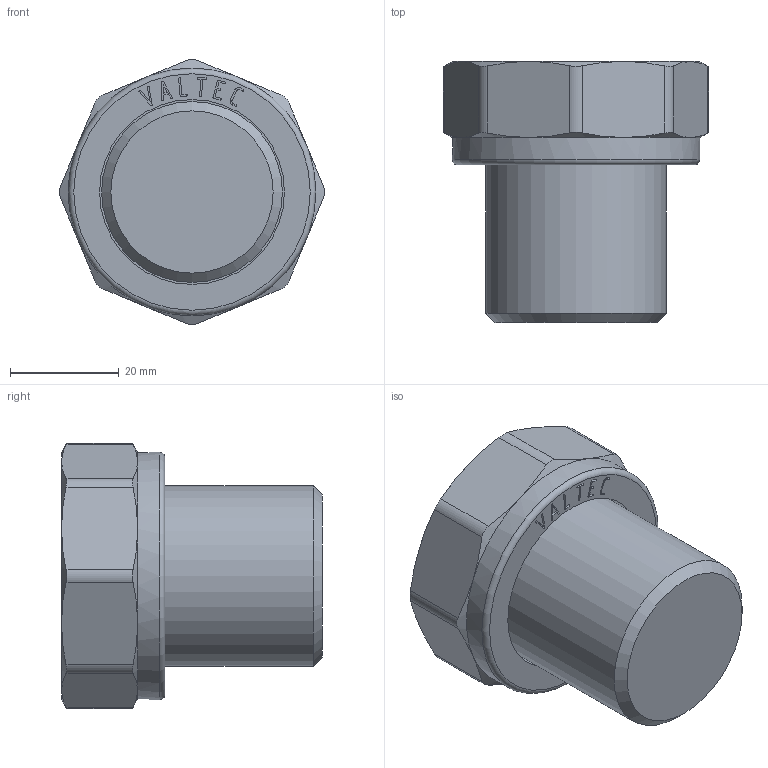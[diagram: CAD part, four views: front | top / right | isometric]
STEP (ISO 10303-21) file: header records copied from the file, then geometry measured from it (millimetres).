
FILE_DESCRIPTION(('STEP AP203'), '1');
FILE_NAME('覆.302638.012.000 捘 - VTr.613.N.0706', '2024-07-10T08:48:12', ('Boss'), (''), 'C3D Converter', 'C3D Toolkit', '');
FILE_SCHEMA(('CONFIG_CONTROL_DESIGN'));
Length unit declared in the file: millimetre
Products named in the file (1): ВР.302638.012.000 СБ
Bounding box: 48.75 x 48 x 48.75 mm (x, y, z)
Volume: 44801 mm3; surface area: 10892.2 mm2
Topology: 1 solids, 1 shells, 162 faces, 431 edges, 281 vertices
Faces by surface type: extrusion 71, plane 60, cone 18, cylinder 12, torus 1
Full cylindrical faces by diameter (mm): 33.249 x1, 34 x1, 38.953 x1, 45.5 x1
Entity records: 6121 total; most frequent: CARTESIAN_POINT 2551, ORIENTED_EDGE 826, DIRECTION 493, EDGE_CURVE 413, VECTOR 279, VERTEX_POINT 277, B_SPLINE_CURVE_WITH_KNOTS 255, LINE 208
